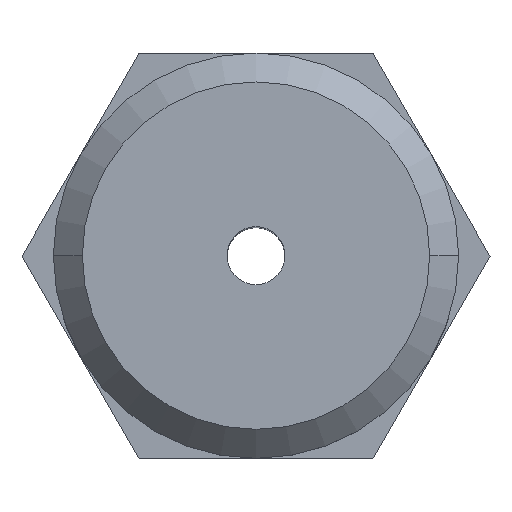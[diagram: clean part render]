
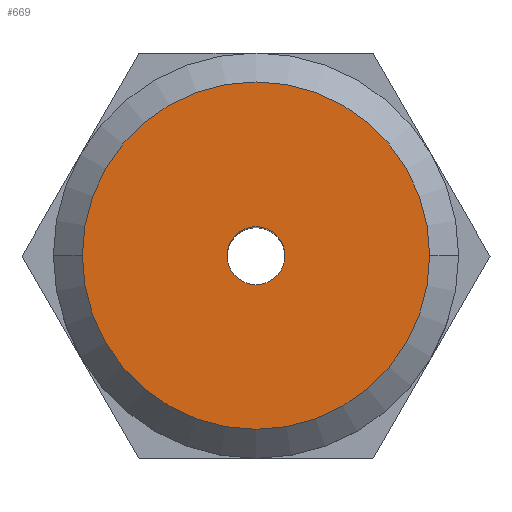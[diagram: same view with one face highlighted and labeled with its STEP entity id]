
A CAD part, top view. The second image highlights one B-rep face of the part: STEP entity #669.
In plain terms, the highlighted planar face has unit normal (0, 0, 1).
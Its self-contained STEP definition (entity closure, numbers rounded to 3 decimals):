
#6 = DIRECTION ( 'NONE',  ( 1., 0., 0. ) ) ;
#93 = FACE_BOUND ( 'NONE', #190, .T. ) ;
#97 = ORIENTED_EDGE ( 'NONE', *, *, #422, .T. ) ;
#98 = DIRECTION ( 'NONE',  ( 0., 0., 1. ) ) ;
#100 = CARTESIAN_POINT ( 'NONE',  ( 0., 0., 14. ) ) ;
#105 = CIRCLE ( 'NONE', #411, 1. ) ;
#138 = VERTEX_POINT ( 'NONE', #651 ) ;
#140 = AXIS2_PLACEMENT_3D ( 'NONE', #100, #408, #410 ) ;
#171 = CARTESIAN_POINT ( 'NONE',  ( 6., 0., 14. ) ) ;
#190 = EDGE_LOOP ( 'NONE', ( #359, #478 ) ) ;
#214 = CARTESIAN_POINT ( 'NONE',  ( 1., 0., 14. ) ) ;
#216 = EDGE_CURVE ( 'NONE', #389, #307, #635, .T. ) ;
#230 = DIRECTION ( 'NONE',  ( 0., 0., 1. ) ) ;
#233 = CARTESIAN_POINT ( 'NONE',  ( 0., 0., 14. ) ) ;
#290 = DIRECTION ( 'NONE',  ( 0., 0., 1. ) ) ;
#296 = VERTEX_POINT ( 'NONE', #171 ) ;
#307 = VERTEX_POINT ( 'NONE', #214 ) ;
#309 = DIRECTION ( 'NONE',  ( 1., 0., 0. ) ) ;
#314 = DIRECTION ( 'NONE',  ( 1., 0., 0. ) ) ;
#322 = CARTESIAN_POINT ( 'NONE',  ( -1., 0., 14. ) ) ;
#359 = ORIENTED_EDGE ( 'NONE', *, *, #442, .F. ) ;
#384 = ORIENTED_EDGE ( 'NONE', *, *, #542, .T. ) ;
#389 = VERTEX_POINT ( 'NONE', #322 ) ;
#396 = AXIS2_PLACEMENT_3D ( 'NONE', #510, #98, #309 ) ;
#405 = PLANE ( 'NONE',  #140 ) ;
#408 = DIRECTION ( 'NONE',  ( 0., 0., 1. ) ) ;
#410 = DIRECTION ( 'NONE',  ( 1., 0., 0. ) ) ;
#411 = AXIS2_PLACEMENT_3D ( 'NONE', #233, #230, #6 ) ;
#422 = EDGE_CURVE ( 'NONE', #296, #138, #629, .T. ) ;
#436 = CARTESIAN_POINT ( 'NONE',  ( 0., 0., 14. ) ) ;
#442 = EDGE_CURVE ( 'NONE', #307, #389, #105, .T. ) ;
#449 = FACE_OUTER_BOUND ( 'NONE', #679, .T. ) ;
#458 = CIRCLE ( 'NONE', #396, 6. ) ;
#478 = ORIENTED_EDGE ( 'NONE', *, *, #216, .F. ) ;
#509 = DIRECTION ( 'NONE',  ( 0., 0., 1. ) ) ;
#510 = CARTESIAN_POINT ( 'NONE',  ( 0., 0., 14. ) ) ;
#528 = DIRECTION ( 'NONE',  ( 1., 0., 0. ) ) ;
#542 = EDGE_CURVE ( 'NONE', #138, #296, #458, .T. ) ;
#557 = AXIS2_PLACEMENT_3D ( 'NONE', #436, #290, #528 ) ;
#561 = CARTESIAN_POINT ( 'NONE',  ( 0., 0., 14. ) ) ;
#580 = AXIS2_PLACEMENT_3D ( 'NONE', #561, #509, #314 ) ;
#629 = CIRCLE ( 'NONE', #557, 6. ) ;
#635 = CIRCLE ( 'NONE', #580, 1. ) ;
#651 = CARTESIAN_POINT ( 'NONE',  ( -6., 0., 14. ) ) ;
#669 = ADVANCED_FACE ( 'NONE', ( #449, #93 ), #405, .T. ) ;
#679 = EDGE_LOOP ( 'NONE', ( #384, #97 ) ) ;
